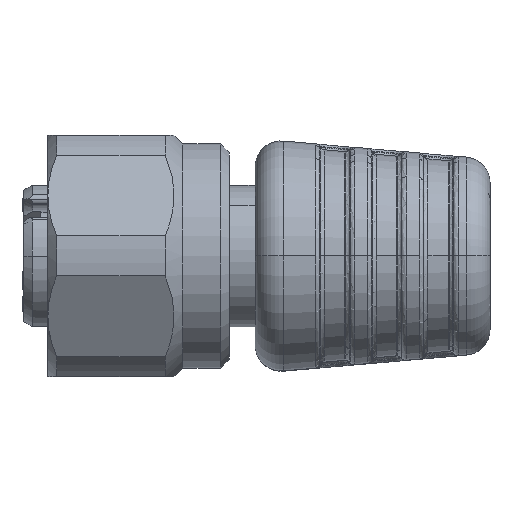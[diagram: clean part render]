
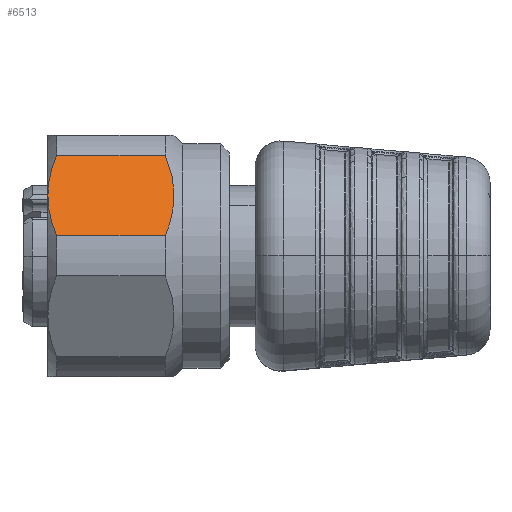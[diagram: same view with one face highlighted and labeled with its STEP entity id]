
A CAD part, top view. The second image highlights one B-rep face of the part: STEP entity #6513.
In plain terms, the highlighted planar face has unit normal (0, 0.5, 0.866).
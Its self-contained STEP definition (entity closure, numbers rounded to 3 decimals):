
#299 = VERTEX_POINT ( 'NONE', #24106 ) ;
#404 = EDGE_CURVE ( 'NONE', #25785, #4353, #15951, .T. ) ;
#1042 = ORIENTED_EDGE ( 'NONE', *, *, #22584, .F. ) ;
#1246 = CARTESIAN_POINT ( 'NONE',  ( -3.7, 5.832, 4.716 ) ) ;
#1514 = DIRECTION ( 'NONE',  ( 0., 0.866, -0.5 ) ) ;
#2536 = VERTEX_POINT ( 'NONE', #1246 ) ;
#2758 = DIRECTION ( 'NONE',  ( 1., 0., 0. ) ) ;
#3780 = CARTESIAN_POINT ( 'NONE',  ( -10.5, 3.5, 6.062 ) ) ;
#4196 = VERTEX_POINT ( 'NONE', #9251 ) ;
#4353 = VERTEX_POINT ( 'NONE', #18635 ) ;
#4535 = B_SPLINE_CURVE_WITH_KNOTS ( 'NONE', 3,
 ( #22827, #7482, #17545, #4998, #9783, #27287 ),
 .UNSPECIFIED., .F., .F.,
 ( 4, 2, 4 ),
 ( 0., 0.003, 0.005 ),
 .UNSPECIFIED. ) ;
#4998 = CARTESIAN_POINT ( 'NONE',  ( -3.2, 2.698, 6.525 ) ) ;
#5573 = CARTESIAN_POINT ( 'NONE',  ( -10., 1.168, 7.408 ) ) ;
#5904 = CARTESIAN_POINT ( 'NONE',  ( -10.5, 2.696, 6.526 ) ) ;
#6513 = ADVANCED_FACE ( 'NONE', ( #7111 ), #17176, .F. ) ;
#6730 = CARTESIAN_POINT ( 'NONE',  ( -13.2, 1.168, 7.408 ) ) ;
#6850 = ORIENTED_EDGE ( 'NONE', *, *, #22946, .F. ) ;
#7111 = FACE_OUTER_BOUND ( 'NONE', #15729, .T. ) ;
#7482 = CARTESIAN_POINT ( 'NONE',  ( -3.388, 5.078, 5.151 ) ) ;
#9108 = ORIENTED_EDGE ( 'NONE', *, *, #404, .F. ) ;
#9251 = CARTESIAN_POINT ( 'NONE',  ( -3.7, 1.168, 7.408 ) ) ;
#9259 = VECTOR ( 'NONE', #2758, 1000. ) ;
#9783 = CARTESIAN_POINT ( 'NONE',  ( -3.387, 1.922, 6.973 ) ) ;
#10041 = CARTESIAN_POINT ( 'NONE',  ( -10.5, 3.5, 6.062 ) ) ;
#10369 = CARTESIAN_POINT ( 'NONE',  ( -10.312, 5.078, 5.151 ) ) ;
#10670 = CARTESIAN_POINT ( 'NONE',  ( -10.313, 1.922, 6.973 ) ) ;
#13470 = LINE ( 'NONE', #15636, #9259 ) ;
#13891 = VECTOR ( 'NONE', #29483, 1000. ) ;
#15636 = CARTESIAN_POINT ( 'NONE',  ( -13.2, 5.832, 4.716 ) ) ;
#15729 = EDGE_LOOP ( 'NONE', ( #1042, #23184, #9108, #17399, #6850 ) ) ;
#15951 = B_SPLINE_CURVE_WITH_KNOTS ( 'NONE', 3,
 ( #10041, #20780, #10369, #30168 ),
 .UNSPECIFIED., .F., .F.,
 ( 4, 4 ),
 ( 0.003, 0.005 ),
 .UNSPECIFIED. ) ;
#16618 = LINE ( 'NONE', #6730, #13891 ) ;
#16691 = DIRECTION ( 'NONE',  ( 0., -0.5, -0.866 ) ) ;
#17176 = PLANE ( 'NONE',  #29919 ) ;
#17399 = ORIENTED_EDGE ( 'NONE', *, *, #17925, .F. ) ;
#17545 = CARTESIAN_POINT ( 'NONE',  ( -3.2, 4.304, 5.598 ) ) ;
#17925 = EDGE_CURVE ( 'NONE', #299, #25785, #28552, .T. ) ;
#17936 = EDGE_CURVE ( 'NONE', #4353, #2536, #13470, .T. ) ;
#18635 = CARTESIAN_POINT ( 'NONE',  ( -10., 5.832, 4.716 ) ) ;
#20780 = CARTESIAN_POINT ( 'NONE',  ( -10.5, 4.303, 5.599 ) ) ;
#22584 = EDGE_CURVE ( 'NONE', #2536, #4196, #4535, .T. ) ;
#22827 = CARTESIAN_POINT ( 'NONE',  ( -3.7, 5.832, 4.716 ) ) ;
#22946 = EDGE_CURVE ( 'NONE', #4196, #299, #16618, .T. ) ;
#23070 = CARTESIAN_POINT ( 'NONE',  ( -10.5, 3.5, 6.062 ) ) ;
#23184 = ORIENTED_EDGE ( 'NONE', *, *, #17936, .F. ) ;
#24106 = CARTESIAN_POINT ( 'NONE',  ( -10., 1.168, 7.408 ) ) ;
#25785 = VERTEX_POINT ( 'NONE', #3780 ) ;
#27287 = CARTESIAN_POINT ( 'NONE',  ( -3.7, 1.168, 7.408 ) ) ;
#28552 = B_SPLINE_CURVE_WITH_KNOTS ( 'NONE', 3,
 ( #5573, #10670, #5904, #23070 ),
 .UNSPECIFIED., .F., .F.,
 ( 4, 4 ),
 ( 0., 0.003 ),
 .UNSPECIFIED. ) ;
#29483 = DIRECTION ( 'NONE',  ( -1., 0., 0. ) ) ;
#29919 = AXIS2_PLACEMENT_3D ( 'NONE', #32025, #16691, #1514 ) ;
#30168 = CARTESIAN_POINT ( 'NONE',  ( -10., 5.832, 4.716 ) ) ;
#32025 = CARTESIAN_POINT ( 'NONE',  ( -2.7, 7., 4.041 ) ) ;
